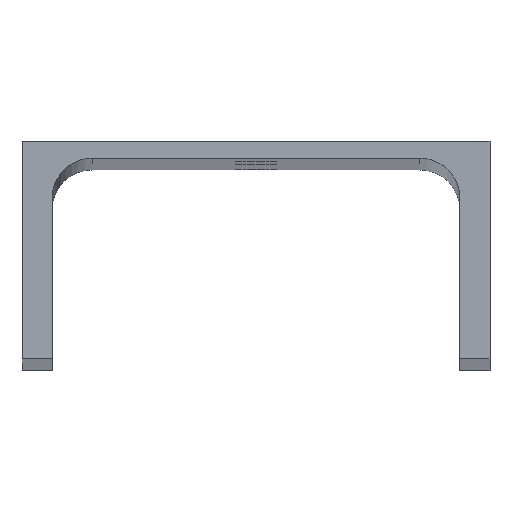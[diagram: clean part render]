
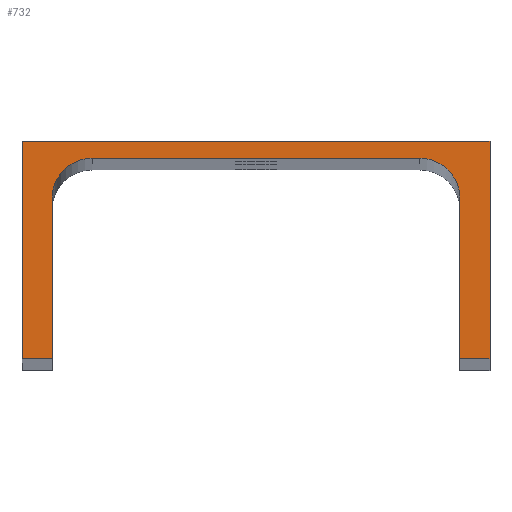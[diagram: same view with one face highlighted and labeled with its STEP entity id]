
A CAD part, top view. The second image highlights one B-rep face of the part: STEP entity #732.
In plain terms, the highlighted planar face has unit normal (0, 0, 1).
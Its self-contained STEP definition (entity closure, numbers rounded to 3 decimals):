
#56 = ORIENTED_EDGE ( 'NONE', *, *, #2478, .F. ) ;
#61 = ORIENTED_EDGE ( 'NONE', *, *, #1318, .F. ) ;
#69 = FACE_OUTER_BOUND ( 'NONE', #373, .T. ) ;
#231 = CARTESIAN_POINT ( 'NONE',  ( 10939., 4080., 3554. ) ) ;
#307 = LINE ( 'NONE', #1677, #3074 ) ;
#310 = VECTOR ( 'NONE', #405, 1000. ) ;
#362 = VERTEX_POINT ( 'NONE', #1864 ) ;
#365 = AXIS2_PLACEMENT_3D ( 'NONE', #3102, #3120, #1143 ) ;
#373 = EDGE_LOOP ( 'NONE', ( #1742, #1978, #56, #2306, #3502, #912, #1433, #3340, #61, #3482 ) ) ;
#405 = DIRECTION ( 'NONE',  ( 0., -1., 0. ) ) ;
#413 = DIRECTION ( 'NONE',  ( 0., 0., 1. ) ) ;
#422 = LINE ( 'NONE', #656, #779 ) ;
#470 = VERTEX_POINT ( 'NONE', #2798 ) ;
#477 = LINE ( 'NONE', #3222, #1057 ) ;
#497 = DIRECTION ( 'NONE',  ( 0., 1., 0. ) ) ;
#505 = EDGE_CURVE ( 'NONE', #3113, #470, #2665, .T. ) ;
#550 = VECTOR ( 'NONE', #757, 1000. ) ;
#594 = VERTEX_POINT ( 'NONE', #872 ) ;
#655 = CARTESIAN_POINT ( 'NONE',  ( 11061., 4080., 3554. ) ) ;
#656 = CARTESIAN_POINT ( 'NONE',  ( 10930., 4080., 3554. ) ) ;
#676 = LINE ( 'NONE', #2869, #310 ) ;
#685 = EDGE_CURVE ( 'NONE', #2579, #594, #2332, .T. ) ;
#732 = ADVANCED_FACE ( 'NONE', ( #69 ), #1240, .T. ) ;
#757 = DIRECTION ( 'NONE',  ( 0., -1., 0. ) ) ;
#775 = EDGE_CURVE ( 'NONE', #594, #3113, #2053, .T. ) ;
#779 = VECTOR ( 'NONE', #2904, 1000. ) ;
#872 = CARTESIAN_POINT ( 'NONE',  ( 11049., 4140., 3554. ) ) ;
#873 = EDGE_CURVE ( 'NONE', #3105, #1716, #422, .T. ) ;
#900 = EDGE_CURVE ( 'NONE', #2471, #2977, #676, .T. ) ;
#912 = ORIENTED_EDGE ( 'NONE', *, *, #505, .F. ) ;
#950 = VECTOR ( 'NONE', #2350, 1000. ) ;
#1038 = CARTESIAN_POINT ( 'NONE',  ( 10939., 4080., 3554. ) ) ;
#1057 = VECTOR ( 'NONE', #497, 1000. ) ;
#1072 = CARTESIAN_POINT ( 'NONE',  ( 11061., 4080., 3554. ) ) ;
#1143 = DIRECTION ( 'NONE',  ( 1., 0., 0. ) ) ;
#1165 = CARTESIAN_POINT ( 'NONE',  ( 10951., 4128., 3554. ) ) ;
#1240 = PLANE ( 'NONE',  #2492 ) ;
#1306 = CARTESIAN_POINT ( 'NONE',  ( 11070., 4145., 3554. ) ) ;
#1318 = EDGE_CURVE ( 'NONE', #3443, #2579, #477, .T. ) ;
#1337 = EDGE_CURVE ( 'NONE', #362, #2471, #2136, .T. ) ;
#1385 = CARTESIAN_POINT ( 'NONE',  ( 11070., 4145., 3554. ) ) ;
#1403 = VECTOR ( 'NONE', #2687, 1000. ) ;
#1433 = ORIENTED_EDGE ( 'NONE', *, *, #775, .F. ) ;
#1509 = CARTESIAN_POINT ( 'NONE',  ( 11049., 4128., 3554. ) ) ;
#1529 = CARTESIAN_POINT ( 'NONE',  ( 10951., 4140., 3554. ) ) ;
#1597 = DIRECTION ( 'NONE',  ( -1., 0., 0. ) ) ;
#1677 = CARTESIAN_POINT ( 'NONE',  ( 10930., 4145., 3554. ) ) ;
#1716 = VERTEX_POINT ( 'NONE', #2835 ) ;
#1742 = ORIENTED_EDGE ( 'NONE', *, *, #900, .F. ) ;
#1864 = CARTESIAN_POINT ( 'NONE',  ( 10930., 4145., 3554. ) ) ;
#1886 = CARTESIAN_POINT ( 'NONE',  ( 10951., 4140., 3554. ) ) ;
#1978 = ORIENTED_EDGE ( 'NONE', *, *, #1337, .F. ) ;
#2053 = LINE ( 'NONE', #1529, #2954 ) ;
#2136 = LINE ( 'NONE', #1306, #1403 ) ;
#2162 = EDGE_CURVE ( 'NONE', #470, #3105, #3214, .T. ) ;
#2254 = DIRECTION ( 'NONE',  ( 0., 1., 0. ) ) ;
#2306 = ORIENTED_EDGE ( 'NONE', *, *, #873, .F. ) ;
#2331 = CARTESIAN_POINT ( 'NONE',  ( 11061., 4128., 3554. ) ) ;
#2332 = CIRCLE ( 'NONE', #2841, 12. ) ;
#2350 = DIRECTION ( 'NONE',  ( -1., 0., 0. ) ) ;
#2471 = VERTEX_POINT ( 'NONE', #1385 ) ;
#2478 = EDGE_CURVE ( 'NONE', #1716, #362, #307, .T. ) ;
#2492 = AXIS2_PLACEMENT_3D ( 'NONE', #1165, #2858, #3146 ) ;
#2526 = EDGE_CURVE ( 'NONE', #2977, #3443, #3136, .T. ) ;
#2548 = DIRECTION ( 'NONE',  ( 1., 0., 0. ) ) ;
#2579 = VERTEX_POINT ( 'NONE', #2331 ) ;
#2665 = CIRCLE ( 'NONE', #365, 12. ) ;
#2687 = DIRECTION ( 'NONE',  ( 1., 0., 0. ) ) ;
#2798 = CARTESIAN_POINT ( 'NONE',  ( 10939., 4128., 3554. ) ) ;
#2835 = CARTESIAN_POINT ( 'NONE',  ( 10930., 4080., 3554. ) ) ;
#2841 = AXIS2_PLACEMENT_3D ( 'NONE', #1509, #413, #2548 ) ;
#2858 = DIRECTION ( 'NONE',  ( 0., 0., 1. ) ) ;
#2869 = CARTESIAN_POINT ( 'NONE',  ( 11070., 4080., 3554. ) ) ;
#2904 = DIRECTION ( 'NONE',  ( -1., 0., 0. ) ) ;
#2954 = VECTOR ( 'NONE', #1597, 1000. ) ;
#2977 = VERTEX_POINT ( 'NONE', #3180 ) ;
#3074 = VECTOR ( 'NONE', #2254, 1000. ) ;
#3102 = CARTESIAN_POINT ( 'NONE',  ( 10951., 4128., 3554. ) ) ;
#3105 = VERTEX_POINT ( 'NONE', #1038 ) ;
#3113 = VERTEX_POINT ( 'NONE', #1886 ) ;
#3120 = DIRECTION ( 'NONE',  ( 0., 0., 1. ) ) ;
#3136 = LINE ( 'NONE', #655, #950 ) ;
#3146 = DIRECTION ( 'NONE',  ( 1., 0., 0. ) ) ;
#3180 = CARTESIAN_POINT ( 'NONE',  ( 11070., 4080., 3554. ) ) ;
#3214 = LINE ( 'NONE', #231, #550 ) ;
#3222 = CARTESIAN_POINT ( 'NONE',  ( 11061., 4128., 3554. ) ) ;
#3340 = ORIENTED_EDGE ( 'NONE', *, *, #685, .F. ) ;
#3443 = VERTEX_POINT ( 'NONE', #1072 ) ;
#3482 = ORIENTED_EDGE ( 'NONE', *, *, #2526, .F. ) ;
#3502 = ORIENTED_EDGE ( 'NONE', *, *, #2162, .F. ) ;
